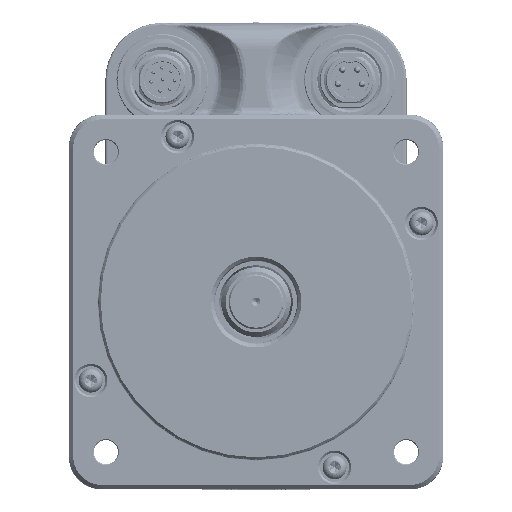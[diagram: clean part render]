
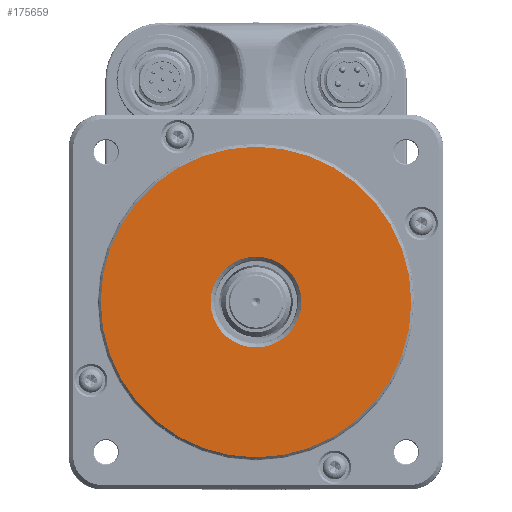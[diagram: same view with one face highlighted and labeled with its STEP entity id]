
A CAD part, top view. The second image highlights one B-rep face of the part: STEP entity #175659.
In plain terms, the highlighted planar face has unit normal (0, 0, 1).
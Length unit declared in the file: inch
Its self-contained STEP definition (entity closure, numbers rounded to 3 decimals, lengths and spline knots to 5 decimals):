
#51436 = CARTESIAN_POINT ( 'NONE',  ( 0., 0., -1.0676 ) ) ;
#71368 = CIRCLE ( 'NONE', #793933, 1.41781 ) ;
#116881 = DIRECTION ( 'NONE',  ( 0., 0., 1. ) ) ;
#148216 = CIRCLE ( 'NONE', #244960, 0.41437 ) ;
#168431 = EDGE_CURVE ( 'NONE', #591250, #740734, #71368, .T. ) ;
#175659 = ADVANCED_FACE ( 'NONE', ( #417200, #617150 ), #817409, .T. ) ;
#181590 = ORIENTED_EDGE ( 'NONE', *, *, #436318, .T. ) ;
#204363 = AXIS2_PLACEMENT_3D ( 'NONE', #420377, #272888, #472821 ) ;
#206441 = DIRECTION ( 'NONE',  ( 0., 1., 0. ) ) ;
#210579 = AXIS2_PLACEMENT_3D ( 'NONE', #336897, #454549, #206441 ) ;
#220486 = CARTESIAN_POINT ( 'NONE',  ( 0., -0.41437, -1.0676 ) ) ;
#244960 = AXIS2_PLACEMENT_3D ( 'NONE', #446648, #520409, #711786 ) ;
#261803 = CARTESIAN_POINT ( 'NONE',  ( 0., 0.41437, -1.0676 ) ) ;
#272888 = DIRECTION ( 'NONE',  ( 0., 0., 1. ) ) ;
#278006 = DIRECTION ( 'NONE',  ( 0., 0., 1. ) ) ;
#307374 = VERTEX_POINT ( 'NONE', #261803 ) ;
#318028 = CARTESIAN_POINT ( 'NONE',  ( 0., 1.41781, -1.0676 ) ) ;
#336897 = CARTESIAN_POINT ( 'NONE',  ( 0., 0., -1.0676 ) ) ;
#360315 = CARTESIAN_POINT ( 'NONE',  ( 0., 0., -1.0676 ) ) ;
#384742 = ORIENTED_EDGE ( 'NONE', *, *, #784919, .T. ) ;
#417200 = FACE_BOUND ( 'NONE', #831418, .T. ) ;
#420377 = CARTESIAN_POINT ( 'NONE',  ( 0., 0., -1.0676 ) ) ;
#436318 = EDGE_CURVE ( 'NONE', #740734, #591250, #815199, .T. ) ;
#446648 = CARTESIAN_POINT ( 'NONE',  ( 0., 0., -1.0676 ) ) ;
#452441 = VERTEX_POINT ( 'NONE', #220486 ) ;
#454549 = DIRECTION ( 'NONE',  ( 0., 0., -1. ) ) ;
#464822 = ORIENTED_EDGE ( 'NONE', *, *, #168431, .T. ) ;
#472821 = DIRECTION ( 'NONE',  ( 0., 1., 0. ) ) ;
#516393 = EDGE_LOOP ( 'NONE', ( #181590, #464822 ) ) ;
#520409 = DIRECTION ( 'NONE',  ( 0., 0., -1. ) ) ;
#549606 = AXIS2_PLACEMENT_3D ( 'NONE', #51436, #116881, #651494 ) ;
#585546 = CIRCLE ( 'NONE', #210579, 0.41437 ) ;
#591250 = VERTEX_POINT ( 'NONE', #318028 ) ;
#617150 = FACE_OUTER_BOUND ( 'NONE', #516393, .T. ) ;
#621159 = DIRECTION ( 'NONE',  ( 0., 1., 0. ) ) ;
#651494 = DIRECTION ( 'NONE',  ( 0., 1., 0. ) ) ;
#711786 = DIRECTION ( 'NONE',  ( 0., 1., 0. ) ) ;
#740734 = VERTEX_POINT ( 'NONE', #777849 ) ;
#773972 = ORIENTED_EDGE ( 'NONE', *, *, #813547, .T. ) ;
#777849 = CARTESIAN_POINT ( 'NONE',  ( 0., -1.41781, -1.0676 ) ) ;
#784919 = EDGE_CURVE ( 'NONE', #452441, #307374, #148216, .T. ) ;
#793933 = AXIS2_PLACEMENT_3D ( 'NONE', #360315, #278006, #621159 ) ;
#813547 = EDGE_CURVE ( 'NONE', #307374, #452441, #585546, .T. ) ;
#815199 = CIRCLE ( 'NONE', #204363, 1.41781 ) ;
#817409 = PLANE ( 'NONE',  #549606 ) ;
#831418 = EDGE_LOOP ( 'NONE', ( #773972, #384742 ) ) ;
